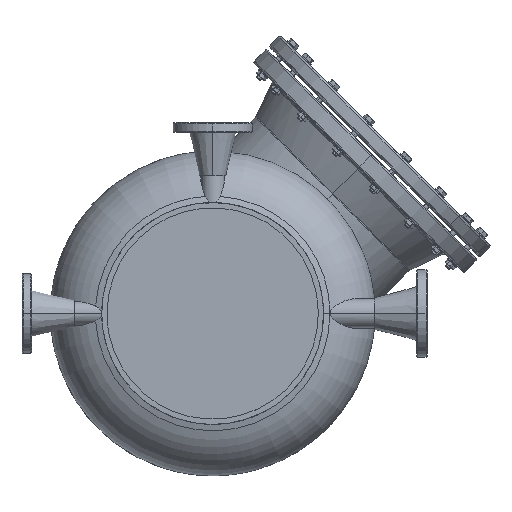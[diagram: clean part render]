
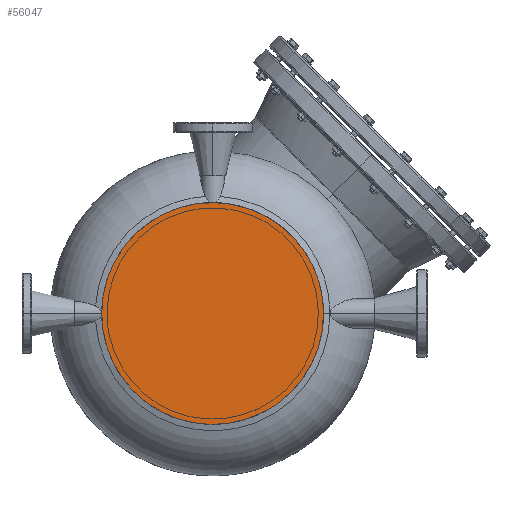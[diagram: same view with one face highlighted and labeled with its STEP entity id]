
A CAD part, front view. The second image highlights one B-rep face of the part: STEP entity #56047.
In plain terms, the highlighted planar face has unit normal (0, -1, 0).
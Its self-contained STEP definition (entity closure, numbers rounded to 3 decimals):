
#357 = DIRECTION ( 'NONE',  ( 0., 1., 0. ) ) ;
#538 = CARTESIAN_POINT ( 'NONE',  ( -323.027, -1055.691, -139.177 ) ) ;
#947 = CARTESIAN_POINT ( 'NONE',  ( -317.664, -1055.691, -112.216 ) ) ;
#1343 = CARTESIAN_POINT ( 'NONE',  ( 95.619, -1055.691, -152.921 ) ) ;
#2140 = CARTESIAN_POINT ( 'NONE',  ( 94.265, -1055.691, -139.177 ) ) ;
#2837 = AXIS2_PLACEMENT_3D ( 'NONE', #55513, #357, #49492 ) ;
#2931 = CARTESIAN_POINT ( 'NONE',  ( 52.592, -1055.691, -38.568 ) ) ;
#3012 = EDGE_CURVE ( 'NONE', #5335, #68812, #24767, .T. ) ;
#4660 = CARTESIAN_POINT ( 'NONE',  ( -207.443, -1055.691, -355.421 ) ) ;
#5335 = VERTEX_POINT ( 'NONE', #42173 ) ;
#5360 = CARTESIAN_POINT ( 'NONE',  ( -46.716, -1055.691, 32.609 ) ) ;
#5414 = CARTESIAN_POINT ( 'NONE',  ( -253.155, -1055.691, -324.877 ) ) ;
#6174 = CARTESIAN_POINT ( 'NONE',  ( -9.139, -1055.691, 15.579 ) ) ;
#6784 = FACE_OUTER_BOUND ( 'NONE', #19093, .T. ) ;
#10250 = CARTESIAN_POINT ( 'NONE',  ( -86.892, -1055.691, -375.312 ) ) ;
#10655 = CARTESIAN_POINT ( 'NONE',  ( -100.636, -1055.691, -376.666 ) ) ;
#11045 = CARTESIAN_POINT ( 'NONE',  ( 95.619, -1055.691, -180.41 ) ) ;
#12677 = ORIENTED_EDGE ( 'NONE', *, *, #3012, .F. ) ;
#14570 = CARTESIAN_POINT ( 'NONE',  ( 43.83, -1055.691, -27.892 ) ) ;
#17092 = CARTESIAN_POINT ( 'NONE',  ( -242.479, -1055.691, -333.638 ) ) ;
#17902 = CARTESIAN_POINT ( 'NONE',  ( 24.393, -1055.691, -324.877 ) ) ;
#18630 = CARTESIAN_POINT ( 'NONE',  ( -313.655, -1055.691, -99. ) ) ;
#19023 = CARTESIAN_POINT ( 'NONE',  ( -242.479, -1055.691, 0.307 ) ) ;
#19093 = EDGE_LOOP ( 'NONE', ( #12677, #60006 ) ) ;
#19841 = CARTESIAN_POINT ( 'NONE',  ( 88.903, -1055.691, -112.216 ) ) ;
#22524 = B_SPLINE_CURVE_WITH_KNOTS ( 'NONE', 3,
 ( #28855, #11045, #46934, #54175, #36072, #53380, #71627, #78818, #65531, #17902, #35693, #47331, #73210, #72800, #60602, #10250, #10655, #34896, #35283, #79226, #66313, #4660, #60229, #17092, #5414, #30047, #53786, #78425, #36860, #24750, #68714, #62213, #25571, #55752 ),
 .UNSPECIFIED., .F., .F.,
 ( 4, 2, 2, 2, 2, 2, 2, 2, 2, 2, 2, 2, 2, 2, 2, 2, 4 ),
 ( 0., 0.062, 0.125, 0.187, 0.25, 0.312, 0.375, 0.437, 0.5, 0.562, 0.625, 0.687, 0.75, 0.812, 0.875, 0.937, 1. ),
 .UNSPECIFIED. ) ;
#24322 = CARTESIAN_POINT ( 'NONE',  ( -141.87, -1055.691, 41.981 ) ) ;
#24750 = CARTESIAN_POINT ( 'NONE',  ( -313.655, -1055.691, -234.331 ) ) ;
#24767 = B_SPLINE_CURVE_WITH_KNOTS ( 'NONE', 3,
 ( #36023, #55702, #538, #947, #18630, #73157, #25108, #49668, #54518, #74326, #19023, #79168, #43628, #50070, #36814, #24322, #42045, #74716, #48874, #60555, #5360, #61368, #6174, #44025, #68660, #14570, #2931, #62962, #75130, #70271, #19841, #2140, #1343, #45585 ),
 .UNSPECIFIED., .F., .F.,
 ( 4, 2, 2, 2, 2, 2, 2, 2, 2, 2, 2, 2, 2, 2, 2, 2, 4 ),
 ( 0., 0.063, 0.125, 0.188, 0.25, 0.313, 0.375, 0.438, 0.5, 0.563, 0.625, 0.688, 0.75, 0.813, 0.875, 0.938, 1. ),
 .UNSPECIFIED. ) ;
#25108 = CARTESIAN_POINT ( 'NONE',  ( -296.626, -1055.691, -61.424 ) ) ;
#25571 = CARTESIAN_POINT ( 'NONE',  ( -324.381, -1055.691, -180.41 ) ) ;
#28855 = CARTESIAN_POINT ( 'NONE',  ( 95.619, -1055.691, -166.666 ) ) ;
#30047 = CARTESIAN_POINT ( 'NONE',  ( -272.592, -1055.691, -305.439 ) ) ;
#30611 = PLANE ( 'NONE',  #2837 ) ;
#34896 = CARTESIAN_POINT ( 'NONE',  ( -128.125, -1055.691, -376.666 ) ) ;
#35283 = CARTESIAN_POINT ( 'NONE',  ( -141.87, -1055.691, -375.312 ) ) ;
#35693 = CARTESIAN_POINT ( 'NONE',  ( 13.717, -1055.691, -333.638 ) ) ;
#36023 = CARTESIAN_POINT ( 'NONE',  ( -324.381, -1055.691, -166.666 ) ) ;
#36072 = CARTESIAN_POINT ( 'NONE',  ( 84.894, -1055.691, -234.331 ) ) ;
#36814 = CARTESIAN_POINT ( 'NONE',  ( -168.83, -1055.691, 36.618 ) ) ;
#36860 = CARTESIAN_POINT ( 'NONE',  ( -303.136, -1055.691, -259.727 ) ) ;
#42045 = CARTESIAN_POINT ( 'NONE',  ( -128.125, -1055.691, 43.334 ) ) ;
#42173 = CARTESIAN_POINT ( 'NONE',  ( -324.381, -1055.691, -166.666 ) ) ;
#43628 = CARTESIAN_POINT ( 'NONE',  ( -207.443, -1055.691, 22.089 ) ) ;
#44025 = CARTESIAN_POINT ( 'NONE',  ( 13.717, -1055.691, 0.307 ) ) ;
#45585 = CARTESIAN_POINT ( 'NONE',  ( 95.619, -1055.691, -166.666 ) ) ;
#46934 = CARTESIAN_POINT ( 'NONE',  ( 94.265, -1055.691, -194.154 ) ) ;
#47331 = CARTESIAN_POINT ( 'NONE',  ( -9.139, -1055.691, -348.91 ) ) ;
#48874 = CARTESIAN_POINT ( 'NONE',  ( -86.892, -1055.691, 41.981 ) ) ;
#49492 = DIRECTION ( 'NONE',  ( 1., 0., 0. ) ) ;
#49668 = CARTESIAN_POINT ( 'NONE',  ( -281.354, -1055.691, -38.568 ) ) ;
#50070 = CARTESIAN_POINT ( 'NONE',  ( -182.046, -1055.691, 32.609 ) ) ;
#53380 = CARTESIAN_POINT ( 'NONE',  ( 74.374, -1055.691, -259.727 ) ) ;
#53786 = CARTESIAN_POINT ( 'NONE',  ( -281.354, -1055.691, -294.764 ) ) ;
#54175 = CARTESIAN_POINT ( 'NONE',  ( 88.903, -1055.691, -221.115 ) ) ;
#54518 = CARTESIAN_POINT ( 'NONE',  ( -272.592, -1055.691, -27.892 ) ) ;
#55513 = CARTESIAN_POINT ( 'NONE',  ( -114.381, -1055.691, -166.666 ) ) ;
#55702 = CARTESIAN_POINT ( 'NONE',  ( -324.381, -1055.691, -152.921 ) ) ;
#55752 = CARTESIAN_POINT ( 'NONE',  ( -324.381, -1055.691, -166.666 ) ) ;
#56047 = ADVANCED_FACE ( 'NONE', ( #6784 ), #30611, .F. ) ;
#60006 = ORIENTED_EDGE ( 'NONE', *, *, #68893, .F. ) ;
#60229 = CARTESIAN_POINT ( 'NONE',  ( -219.623, -1055.691, -348.91 ) ) ;
#60555 = CARTESIAN_POINT ( 'NONE',  ( -59.932, -1055.691, 36.618 ) ) ;
#60602 = CARTESIAN_POINT ( 'NONE',  ( -59.932, -1055.691, -369.949 ) ) ;
#61368 = CARTESIAN_POINT ( 'NONE',  ( -21.319, -1055.691, 22.089 ) ) ;
#62213 = CARTESIAN_POINT ( 'NONE',  ( -323.027, -1055.691, -194.154 ) ) ;
#62962 = CARTESIAN_POINT ( 'NONE',  ( 67.864, -1055.691, -61.424 ) ) ;
#65531 = CARTESIAN_POINT ( 'NONE',  ( 43.83, -1055.691, -305.439 ) ) ;
#66313 = CARTESIAN_POINT ( 'NONE',  ( -182.046, -1055.691, -365.94 ) ) ;
#68660 = CARTESIAN_POINT ( 'NONE',  ( 24.393, -1055.691, -8.454 ) ) ;
#68714 = CARTESIAN_POINT ( 'NONE',  ( -317.664, -1055.691, -221.115 ) ) ;
#68812 = VERTEX_POINT ( 'NONE', #78039 ) ;
#68893 = EDGE_CURVE ( 'NONE', #68812, #5335, #22524, .T. ) ;
#70271 = CARTESIAN_POINT ( 'NONE',  ( 84.894, -1055.691, -99. ) ) ;
#71627 = CARTESIAN_POINT ( 'NONE',  ( 67.864, -1055.691, -271.907 ) ) ;
#72800 = CARTESIAN_POINT ( 'NONE',  ( -46.716, -1055.691, -365.94 ) ) ;
#73157 = CARTESIAN_POINT ( 'NONE',  ( -303.136, -1055.691, -73.604 ) ) ;
#73210 = CARTESIAN_POINT ( 'NONE',  ( -21.319, -1055.691, -355.421 ) ) ;
#74326 = CARTESIAN_POINT ( 'NONE',  ( -253.155, -1055.691, -8.454 ) ) ;
#74716 = CARTESIAN_POINT ( 'NONE',  ( -100.636, -1055.691, 43.334 ) ) ;
#75130 = CARTESIAN_POINT ( 'NONE',  ( 74.374, -1055.691, -73.604 ) ) ;
#78039 = CARTESIAN_POINT ( 'NONE',  ( 95.619, -1055.691, -166.666 ) ) ;
#78425 = CARTESIAN_POINT ( 'NONE',  ( -296.626, -1055.691, -271.907 ) ) ;
#78818 = CARTESIAN_POINT ( 'NONE',  ( 52.592, -1055.691, -294.764 ) ) ;
#79168 = CARTESIAN_POINT ( 'NONE',  ( -219.623, -1055.691, 15.579 ) ) ;
#79226 = CARTESIAN_POINT ( 'NONE',  ( -168.83, -1055.691, -369.949 ) ) ;
